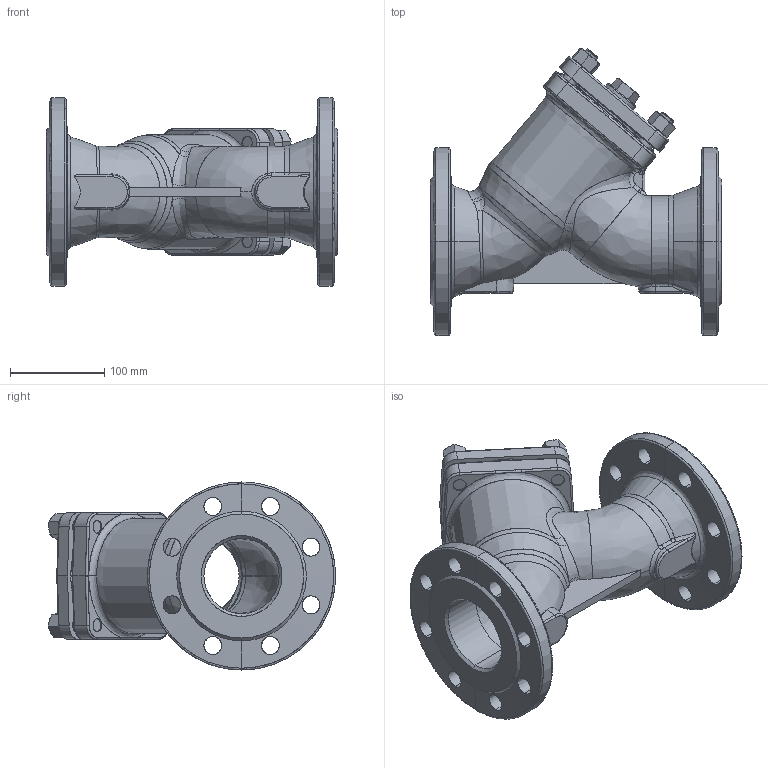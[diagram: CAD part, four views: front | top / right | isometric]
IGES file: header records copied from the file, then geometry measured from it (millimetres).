
Start section: SolidWorks IGES file using analytic representation for surfaces
Global section: file name: D:\katalog z³o¿eñ\00_Gotowe\821\RYSUNKI DXF\Z£O¯ENIA\Part\821_DN80_PN16.IGS; native system: SolidWorks 2010; preprocessor: SolidWorks 2010; author: alisowsk; date: 100108.130027; units: millimetre
Bounding box: 310 x 305.46 x 200 mm (x, y, z)
Surface area: 449638.3 mm2 (no closed solid volume)
Topology: 0 solids, 0 shells, 600 faces, 9476 edges, 9476 vertices
Faces by surface type: revolution 315, bspline 285
